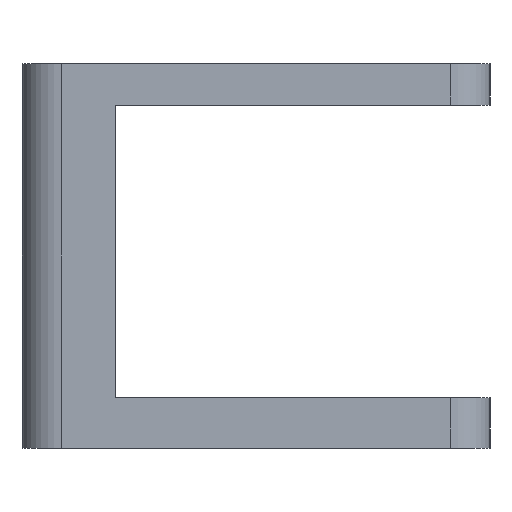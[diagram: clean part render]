
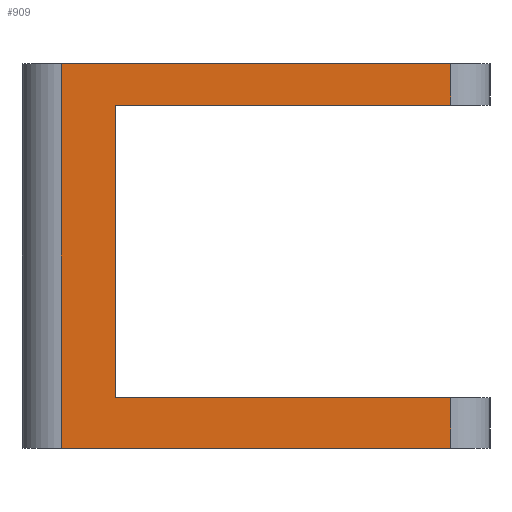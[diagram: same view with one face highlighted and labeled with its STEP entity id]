
A CAD part, left-side view. The second image highlights one B-rep face of the part: STEP entity #909.
In plain terms, the highlighted planar face has unit normal (-1, 0, 0).
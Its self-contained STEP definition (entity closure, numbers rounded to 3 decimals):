
#24=LINE('',#1463,#64);
#28=LINE('',#1479,#68);
#33=LINE('',#1493,#73);
#36=LINE('',#1499,#76);
#52=LINE('',#1545,#92);
#53=LINE('',#1548,#93);
#54=LINE('',#1549,#94);
#55=LINE('',#1550,#95);
#64=VECTOR('',#1215,5.3);
#68=VECTOR('',#1231,50.);
#73=VECTOR('',#1242,43.);
#76=VECTOR('',#1247,37.5);
#92=VECTOR('',#1295,6.5);
#93=VECTOR('',#1298,50.);
#94=VECTOR('',#1299,43.);
#95=VECTOR('',#1300,49.3);
#116=PLANE('',#1029);
#237=FACE_OUTER_BOUND('',#349,.T.);
#349=EDGE_LOOP('',(#785,#786,#787,#788,#789,#790,#791,#792));
#484=VERTEX_POINT('',#1459);
#485=VERTEX_POINT('',#1461);
#491=VERTEX_POINT('',#1477);
#496=VERTEX_POINT('',#1489);
#499=VERTEX_POINT('',#1496);
#512=VERTEX_POINT('',#1541);
#513=VERTEX_POINT('',#1543);
#514=VERTEX_POINT('',#1547);
#572=EDGE_CURVE('',#484,#485,#24,.T.);
#580=EDGE_CURVE('',#491,#485,#28,.T.);
#587=EDGE_CURVE('',#496,#484,#33,.T.);
#590=EDGE_CURVE('',#499,#496,#36,.T.);
#613=EDGE_CURVE('',#512,#513,#52,.T.);
#614=EDGE_CURVE('',#514,#512,#53,.T.);
#615=EDGE_CURVE('',#499,#513,#54,.T.);
#616=EDGE_CURVE('',#514,#491,#55,.T.);
#785=ORIENTED_EDGE('',*,*,#614,.T.);
#786=ORIENTED_EDGE('',*,*,#613,.T.);
#787=ORIENTED_EDGE('',*,*,#615,.F.);
#788=ORIENTED_EDGE('',*,*,#590,.T.);
#789=ORIENTED_EDGE('',*,*,#587,.T.);
#790=ORIENTED_EDGE('',*,*,#572,.T.);
#791=ORIENTED_EDGE('',*,*,#580,.F.);
#792=ORIENTED_EDGE('',*,*,#616,.F.);
#909=ADVANCED_FACE('',(#237),#116,.T.);
#1029=AXIS2_PLACEMENT_3D('',#1546,#1296,#1297);
#1215=DIRECTION('',(0.,0.,1.));
#1231=DIRECTION('',(0.,-1.,0.));
#1242=DIRECTION('',(0.,-1.,0.));
#1247=DIRECTION('',(0.,0.,1.));
#1295=DIRECTION('',(0.,0.,1.));
#1296=DIRECTION('center_axis',(-1.,0.,0.));
#1297=DIRECTION('ref_axis',(0.,-1.,0.));
#1298=DIRECTION('',(0.,-1.,0.));
#1299=DIRECTION('',(0.,-1.,0.));
#1300=DIRECTION('',(0.,0.,1.));
#1459=CARTESIAN_POINT('',(-100.721,-25.,44.));
#1461=CARTESIAN_POINT('',(-100.721,-25.,49.3));
#1463=CARTESIAN_POINT('',(-100.721,-25.,44.));
#1477=CARTESIAN_POINT('',(-100.721,25.,49.3));
#1479=CARTESIAN_POINT('',(-100.721,25.,49.3));
#1489=CARTESIAN_POINT('',(-100.721,18.,44.));
#1493=CARTESIAN_POINT('',(-100.721,25.,44.));
#1496=CARTESIAN_POINT('',(-100.721,18.,6.5));
#1499=CARTESIAN_POINT('',(-100.721,18.,6.5));
#1541=CARTESIAN_POINT('',(-100.721,-25.,0.));
#1543=CARTESIAN_POINT('',(-100.721,-25.,6.5));
#1545=CARTESIAN_POINT('',(-100.721,-25.,0.));
#1546=CARTESIAN_POINT('Origin',(-100.721,25.,0.));
#1547=CARTESIAN_POINT('',(-100.721,25.,0.));
#1548=CARTESIAN_POINT('',(-100.721,25.,0.));
#1549=CARTESIAN_POINT('',(-100.721,25.,6.5));
#1550=CARTESIAN_POINT('',(-100.721,25.,0.));
